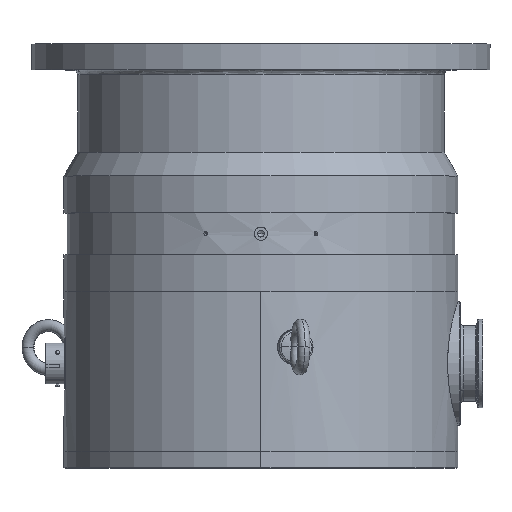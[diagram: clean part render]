
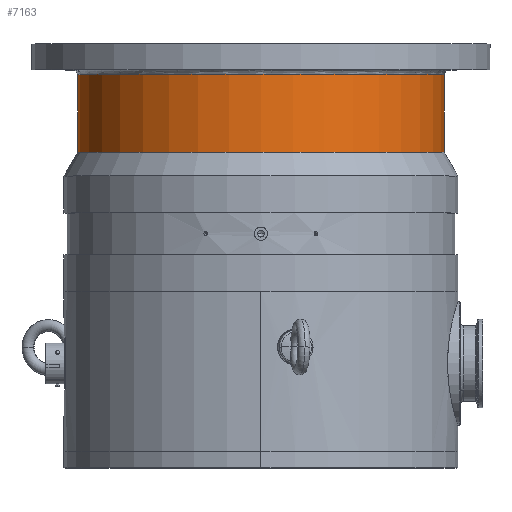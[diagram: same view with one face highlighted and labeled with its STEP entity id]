
A CAD part, top view. The second image highlights one B-rep face of the part: STEP entity #7163.
In plain terms, the highlighted cylindrical face has radius 114 mm (diameter 228 mm), a partial arc.
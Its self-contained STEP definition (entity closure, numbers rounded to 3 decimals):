
#6665 = VERTEX_POINT ( 'NONE', #25333 ) ;
#6674 = EDGE_CURVE ( 'NONE', #6665, #6712, #25585, .T. ) ;
#6712 = VERTEX_POINT ( 'NONE', #26257 ) ;
#7102 = VERTEX_POINT ( 'NONE', #27154 ) ;
#7117 = ORIENTED_EDGE ( 'NONE', *, *, #6674, .T. ) ;
#7124 = EDGE_LOOP ( 'NONE', ( #7165, #7203, #7117, #7135 ) ) ;
#7135 = ORIENTED_EDGE ( 'NONE', *, *, #7164, .F. ) ;
#7162 = EDGE_CURVE ( 'NONE', #7102, #6665, #27290, .T. ) ;
#7163 = ADVANCED_FACE ( 'NONE', ( #27241 ), #27262, .T. ) ;
#7164 = EDGE_CURVE ( 'NONE', #7193, #6712, #27281, .T. ) ;
#7165 = ORIENTED_EDGE ( 'NONE', *, *, #7174, .F. ) ;
#7174 = EDGE_CURVE ( 'NONE', #7102, #7193, #27318, .T. ) ;
#7193 = VERTEX_POINT ( 'NONE', #27336 ) ;
#7203 = ORIENTED_EDGE ( 'NONE', *, *, #7162, .T. ) ;
#25333 = CARTESIAN_POINT ( 'NONE',  ( 114., 234.6, 0. ) ) ;
#25578 = DIRECTION ( 'NONE',  ( -1., 0., 0. ) ) ;
#25579 = DIRECTION ( 'NONE',  ( 0., -1., 0. ) ) ;
#25580 = CARTESIAN_POINT ( 'NONE',  ( 0., 234.6, 0. ) ) ;
#25581 = AXIS2_PLACEMENT_3D ( 'NONE', #25580, #25579, #25578 ) ;
#25585 = CIRCLE ( 'NONE', #25581, 114. ) ;
#26257 = CARTESIAN_POINT ( 'NONE',  ( -114., 234.6, 0. ) ) ;
#27154 = CARTESIAN_POINT ( 'NONE',  ( 114., 186.222, 0. ) ) ;
#27240 = CARTESIAN_POINT ( 'NONE',  ( 0., 253.6, 0. ) ) ;
#27241 = FACE_OUTER_BOUND ( 'NONE', #7124, .T. ) ;
#27255 = DIRECTION ( 'NONE',  ( 0., 1., 0. ) ) ;
#27262 = CYLINDRICAL_SURFACE ( 'NONE', #27286, 114. ) ;
#27272 = AXIS2_PLACEMENT_3D ( 'NONE', #27313, #27312, #27311 ) ;
#27274 = DIRECTION ( 'NONE',  ( 0., 1., 0. ) ) ;
#27275 = VECTOR ( 'NONE', #27274, 1000. ) ;
#27276 = CARTESIAN_POINT ( 'NONE',  ( -114., 253.6, 0. ) ) ;
#27278 = DIRECTION ( 'NONE',  ( -1., 0., 0. ) ) ;
#27281 = LINE ( 'NONE', #27276, #27275 ) ;
#27286 = AXIS2_PLACEMENT_3D ( 'NONE', #27240, #27255, #27278 ) ;
#27287 = DIRECTION ( 'NONE',  ( 0., 1., 0. ) ) ;
#27288 = VECTOR ( 'NONE', #27287, 1000. ) ;
#27289 = CARTESIAN_POINT ( 'NONE',  ( 114., 253.6, 0. ) ) ;
#27290 = LINE ( 'NONE', #27289, #27288 ) ;
#27311 = DIRECTION ( 'NONE',  ( 1., 0., 0. ) ) ;
#27312 = DIRECTION ( 'NONE',  ( 0., -1., 0. ) ) ;
#27313 = CARTESIAN_POINT ( 'NONE',  ( 0., 186.222, 0. ) ) ;
#27318 = CIRCLE ( 'NONE', #27272, 114. ) ;
#27336 = CARTESIAN_POINT ( 'NONE',  ( -114., 186.222, 0. ) ) ;
